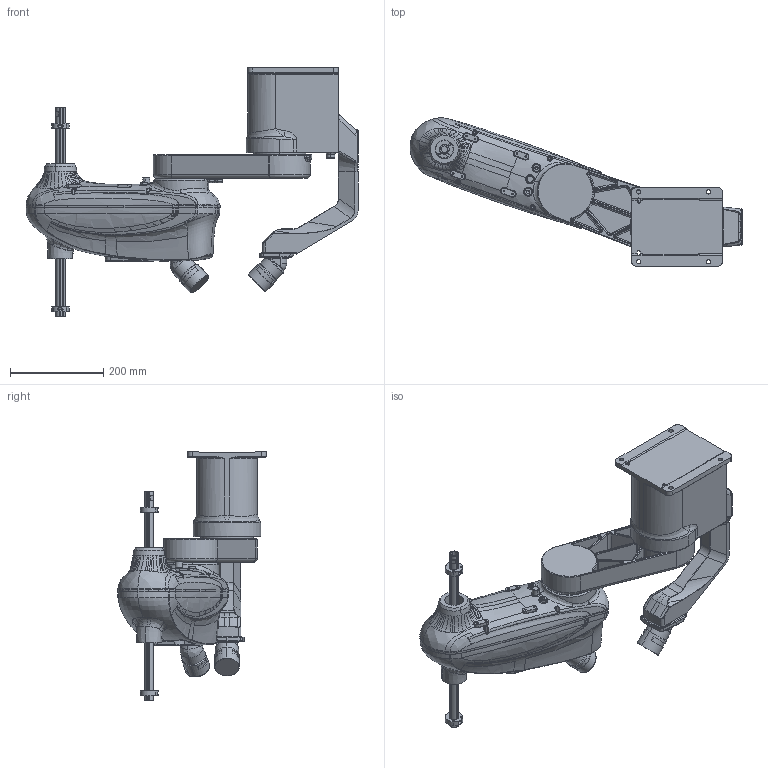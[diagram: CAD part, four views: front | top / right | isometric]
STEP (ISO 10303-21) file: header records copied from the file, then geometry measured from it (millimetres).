
FILE_DESCRIPTION (( 'STEP AP214' ), '1' );
FILE_NAME ('MR06SC-500.STEP', '2023-07-18T07:06:57', ( '' ), ( '' ), 'SwSTEP 2.0', 'SolidWorks 2018', '' );
FILE_SCHEMA (( 'AUTOMOTIVE_DESIGN' ));
Length unit declared in the file: millimetre
Products named in the file (8): MR06SC-500.sldasm-Part-2; MR06SC-500.sldasm-Part-1; MR06SC-500; MR06SC-500.sldasm-Part-7; MR06SC-500.sldasm-Part-6; MR06SC-500.sldasm-Part-5; MR06SC-500.sldasm-Part-3; MR06SC-500.sldasm-Part-4
Assembly tree (7 placements, depth 2):
  MR06SC-500
    MR06SC-500.sldasm-Part-1
    MR06SC-500.sldasm-Part-2
    MR06SC-500.sldasm-Part-3
    MR06SC-500.sldasm-Part-4
    MR06SC-500.sldasm-Part-5
    MR06SC-500.sldasm-Part-6
    MR06SC-500.sldasm-Part-7
Bounding box: 713.17 x 319.2 x 535.15 mm (x, y, z)
Volume: 14550876.9 mm3; surface area: 791432.9 mm2
Topology: 7 solids, 7 shells, 1391 faces, 4066 edges, 2704 vertices
Faces by surface type: bspline 531, cylinder 357, plane 242, torus 122, cone 113, sphere 26
Entity records: 170340 total; most frequent: CARTESIAN_POINT 137680, ORIENTED_EDGE 8040, DIRECTION 4787, EDGE_CURVE 4020, VERTEX_POINT 2694, AXIS2_PLACEMENT_3D 1927, B_SPLINE_CURVE_WITH_KNOTS 1902, EDGE_LOOP 1472
